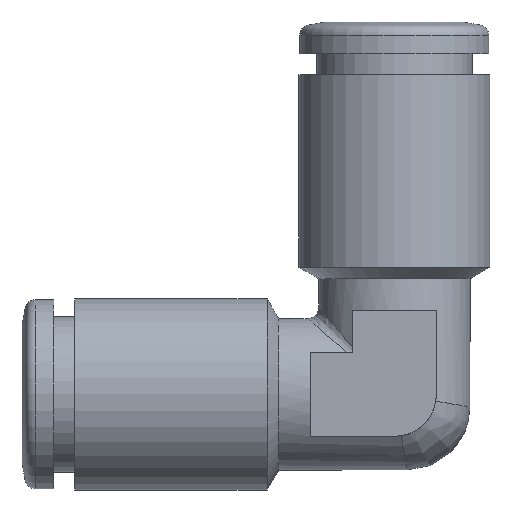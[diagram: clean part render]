
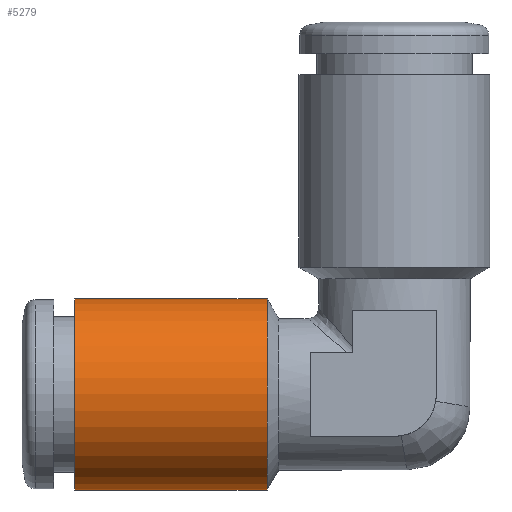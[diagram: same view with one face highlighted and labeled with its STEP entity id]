
A CAD part, front view. The second image highlights one B-rep face of the part: STEP entity #5279.
In plain terms, the highlighted cylindrical face has radius 4.55 mm (diameter 9.1 mm), a full revolution.
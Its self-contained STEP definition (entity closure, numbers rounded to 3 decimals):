
#1363=CYLINDRICAL_SURFACE('',#5129,4.55);
#1398=CIRCLE('',#5128,4.55);
#1399=CIRCLE('',#5130,4.55);
#1488=ORIENTED_EDGE('',*,*,#1728,.T.);
#1489=ORIENTED_EDGE('',*,*,#1727,.T.);
#1727=EDGE_CURVE('',#1969,#1969,#1398,.T.);
#1728=EDGE_CURVE('',#1970,#1970,#1399,.T.);
#1850=EDGE_LOOP('',(#1488));
#1851=EDGE_LOOP('',(#1489));
#1969=VERTEX_POINT('',#4204);
#1970=VERTEX_POINT('',#4207);
#2076=FACE_BOUND('',#1850,.T.);
#2077=FACE_BOUND('',#1851,.T.);
#2252=DIRECTION('',(1.,0.,0.));
#2253=DIRECTION('',(0.,4.55,0.));
#2254=DIRECTION('',(1.,0.,0.));
#2255=DIRECTION('',(0.,1.,0.));
#2256=DIRECTION('',(-1.,0.,0.));
#2257=DIRECTION('',(0.,0.,-4.55));
#4204=CARTESIAN_POINT('',(-12.482,-83.677,0.));
#4205=CARTESIAN_POINT('',(-12.482,-88.227,0.));
#4206=CARTESIAN_POINT('',(-12.482,-88.227,0.));
#4207=CARTESIAN_POINT('',(-3.331,-88.227,-4.55));
#4208=CARTESIAN_POINT('',(-3.331,-88.227,0.));
#5128=AXIS2_PLACEMENT_3D('',#4205,#2252,#2253);
#5129=AXIS2_PLACEMENT_3D('',#4206,#2254,#2255);
#5130=AXIS2_PLACEMENT_3D('',#4208,#2256,#2257);
#5279=ADVANCED_FACE('',(#2076,#2077),#1363,.T.);
